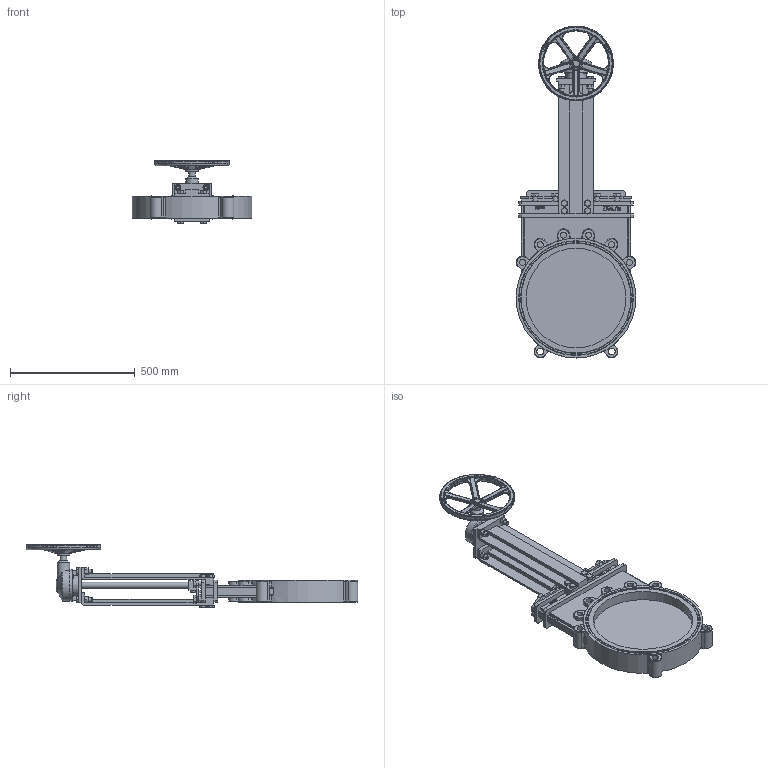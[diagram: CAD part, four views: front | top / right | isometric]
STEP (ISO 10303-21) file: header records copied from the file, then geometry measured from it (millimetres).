
FILE_DESCRIPTION(('STEP AP242'), '1');
FILE_NAME('GVKN1331N-2W-Fb-R Çàäâèæêà øèáåðíàÿ DN.ru Äó400 Ðó10 Ðð6', '2026-06-07T09:14:31', ('R2D2'), (''), 'C3D Converter', 'C3D Toolkit', '');
FILE_SCHEMA(('AP242_MANAGED_MODEL_BASED_3D_ENGINEERING_MIM_LF { 1 0 10303 442 1 1 4 }'));
Length unit declared in the file: millimetre
Products named in the file (1): GVKN1331N-2W-Fb-R
Bounding box: 480 x 1330.5 x 254.46 mm (x, y, z)
Volume: 16552756.9 mm3; surface area: 1682614 mm2
Topology: 1 solids, 1 shells, 1911 faces, 4816 edges, 2988 vertices
Faces by surface type: plane 841, cylinder 392, torus 258, bspline 209, extrusion 94, sphere 59, cone 58
Full cylindrical faces by diameter (mm): 10 x4, 16 x10, 18 x8, 24 x12, 25 x3, 27 x2, 35 x1, 50 x2, 125 x2, 260 x1, 268 x1, 292 x1, 300 x1, 400 x2, 440 x2, 460 x2, 480 x1
Entity records: 114132 total; most frequent: CARTESIAN_POINT 54906, ORIENTED_EDGE 9414, DIRECTION 8421, EDGE_CURVE 4707, AXIS2_PLACEMENT_3D 3055, VERTEX_POINT 2988, VECTOR 2311, LINE 2217
